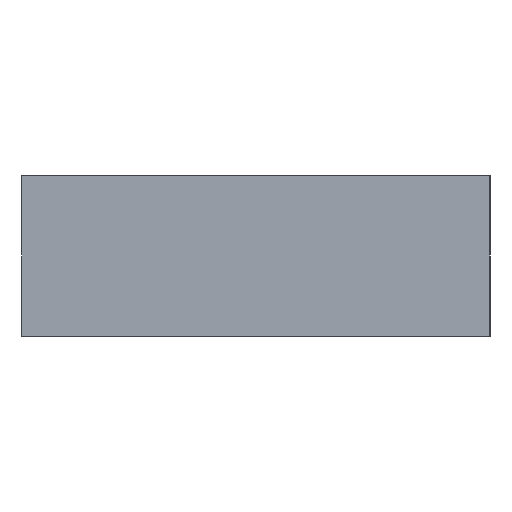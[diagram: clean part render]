
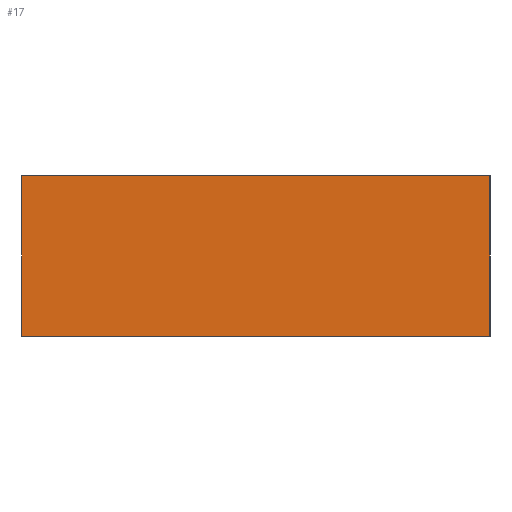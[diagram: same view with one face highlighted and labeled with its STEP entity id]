
A CAD part, left-side view. The second image highlights one B-rep face of the part: STEP entity #17.
In plain terms, the highlighted planar face has unit normal (-1, 0, 0).
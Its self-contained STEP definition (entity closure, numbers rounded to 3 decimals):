
#17 = ADVANCED_FACE('',(#18),#32,.F.);
#18 = FACE_BOUND('',#19,.F.);
#19 = EDGE_LOOP('',(#20,#55,#83,#111));
#20 = ORIENTED_EDGE('',*,*,#21,.F.);
#21 = EDGE_CURVE('',#22,#24,#26,.T.);
#22 = VERTEX_POINT('',#23);
#23 = CARTESIAN_POINT('',(-25.,-17.5,0.));
#24 = VERTEX_POINT('',#25);
#25 = CARTESIAN_POINT('',(-25.,-17.5,12.));
#26 = SURFACE_CURVE('',#27,(#31,#43),.PCURVE_S1.);
#27 = LINE('',#28,#29);
#28 = CARTESIAN_POINT('',(-25.,-17.5,0.));
#29 = VECTOR('',#30,1.);
#30 = DIRECTION('',(0.,0.,1.));
#31 = PCURVE('',#32,#37);
#32 = PLANE('',#33);
#33 = AXIS2_PLACEMENT_3D('',#34,#35,#36);
#34 = CARTESIAN_POINT('',(-25.,-17.5,0.));
#35 = DIRECTION('',(1.,0.,0.));
#36 = DIRECTION('',(0.,0.,1.));
#37 = DEFINITIONAL_REPRESENTATION('',(#38),#42);
#38 = LINE('',#39,#40);
#39 = CARTESIAN_POINT('',(0.,0.));
#40 = VECTOR('',#41,1.);
#41 = DIRECTION('',(1.,0.));
#42 = ( GEOMETRIC_REPRESENTATION_CONTEXT(2) 
PARAMETRIC_REPRESENTATION_CONTEXT() REPRESENTATION_CONTEXT('2D SPACE',''
  ) );
#43 = PCURVE('',#44,#49);
#44 = PLANE('',#45);
#45 = AXIS2_PLACEMENT_3D('',#46,#47,#48);
#46 = CARTESIAN_POINT('',(-25.,-17.5,0.));
#47 = DIRECTION('',(0.,1.,0.));
#48 = DIRECTION('',(0.,0.,1.));
#49 = DEFINITIONAL_REPRESENTATION('',(#50),#54);
#50 = LINE('',#51,#52);
#51 = CARTESIAN_POINT('',(0.,0.));
#52 = VECTOR('',#53,1.);
#53 = DIRECTION('',(1.,0.));
#54 = ( GEOMETRIC_REPRESENTATION_CONTEXT(2) 
PARAMETRIC_REPRESENTATION_CONTEXT() REPRESENTATION_CONTEXT('2D SPACE',''
  ) );
#55 = ORIENTED_EDGE('',*,*,#56,.T.);
#56 = EDGE_CURVE('',#22,#57,#59,.T.);
#57 = VERTEX_POINT('',#58);
#58 = CARTESIAN_POINT('',(-25.,17.5,0.));
#59 = SURFACE_CURVE('',#60,(#64,#71),.PCURVE_S1.);
#60 = LINE('',#61,#62);
#61 = CARTESIAN_POINT('',(-25.,-17.5,0.));
#62 = VECTOR('',#63,1.);
#63 = DIRECTION('',(0.,1.,0.));
#64 = PCURVE('',#32,#65);
#65 = DEFINITIONAL_REPRESENTATION('',(#66),#70);
#66 = LINE('',#67,#68);
#67 = CARTESIAN_POINT('',(0.,0.));
#68 = VECTOR('',#69,1.);
#69 = DIRECTION('',(0.,-1.));
#70 = ( GEOMETRIC_REPRESENTATION_CONTEXT(2) 
PARAMETRIC_REPRESENTATION_CONTEXT() REPRESENTATION_CONTEXT('2D SPACE',''
  ) );
#71 = PCURVE('',#72,#77);
#72 = PLANE('',#73);
#73 = AXIS2_PLACEMENT_3D('',#74,#75,#76);
#74 = CARTESIAN_POINT('',(-25.,-17.5,0.));
#75 = DIRECTION('',(0.,0.,1.));
#76 = DIRECTION('',(1.,0.,0.));
#77 = DEFINITIONAL_REPRESENTATION('',(#78),#82);
#78 = LINE('',#79,#80);
#79 = CARTESIAN_POINT('',(0.,0.));
#80 = VECTOR('',#81,1.);
#81 = DIRECTION('',(0.,1.));
#82 = ( GEOMETRIC_REPRESENTATION_CONTEXT(2) 
PARAMETRIC_REPRESENTATION_CONTEXT() REPRESENTATION_CONTEXT('2D SPACE',''
  ) );
#83 = ORIENTED_EDGE('',*,*,#84,.T.);
#84 = EDGE_CURVE('',#57,#85,#87,.T.);
#85 = VERTEX_POINT('',#86);
#86 = CARTESIAN_POINT('',(-25.,17.5,12.));
#87 = SURFACE_CURVE('',#88,(#92,#99),.PCURVE_S1.);
#88 = LINE('',#89,#90);
#89 = CARTESIAN_POINT('',(-25.,17.5,0.));
#90 = VECTOR('',#91,1.);
#91 = DIRECTION('',(0.,0.,1.));
#92 = PCURVE('',#32,#93);
#93 = DEFINITIONAL_REPRESENTATION('',(#94),#98);
#94 = LINE('',#95,#96);
#95 = CARTESIAN_POINT('',(0.,-35.));
#96 = VECTOR('',#97,1.);
#97 = DIRECTION('',(1.,0.));
#98 = ( GEOMETRIC_REPRESENTATION_CONTEXT(2) 
PARAMETRIC_REPRESENTATION_CONTEXT() REPRESENTATION_CONTEXT('2D SPACE',''
  ) );
#99 = PCURVE('',#100,#105);
#100 = PLANE('',#101);
#101 = AXIS2_PLACEMENT_3D('',#102,#103,#104);
#102 = CARTESIAN_POINT('',(-25.,17.5,0.));
#103 = DIRECTION('',(0.,1.,0.));
#104 = DIRECTION('',(0.,0.,1.));
#105 = DEFINITIONAL_REPRESENTATION('',(#106),#110);
#106 = LINE('',#107,#108);
#107 = CARTESIAN_POINT('',(0.,0.));
#108 = VECTOR('',#109,1.);
#109 = DIRECTION('',(1.,0.));
#110 = ( GEOMETRIC_REPRESENTATION_CONTEXT(2) 
PARAMETRIC_REPRESENTATION_CONTEXT() REPRESENTATION_CONTEXT('2D SPACE',''
  ) );
#111 = ORIENTED_EDGE('',*,*,#112,.F.);
#112 = EDGE_CURVE('',#24,#85,#113,.T.);
#113 = SURFACE_CURVE('',#114,(#118,#125),.PCURVE_S1.);
#114 = LINE('',#115,#116);
#115 = CARTESIAN_POINT('',(-25.,-17.5,12.));
#116 = VECTOR('',#117,1.);
#117 = DIRECTION('',(0.,1.,0.));
#118 = PCURVE('',#32,#119);
#119 = DEFINITIONAL_REPRESENTATION('',(#120),#124);
#120 = LINE('',#121,#122);
#121 = CARTESIAN_POINT('',(12.,0.));
#122 = VECTOR('',#123,1.);
#123 = DIRECTION('',(0.,-1.));
#124 = ( GEOMETRIC_REPRESENTATION_CONTEXT(2) 
PARAMETRIC_REPRESENTATION_CONTEXT() REPRESENTATION_CONTEXT('2D SPACE',''
  ) );
#125 = PCURVE('',#126,#131);
#126 = PLANE('',#127);
#127 = AXIS2_PLACEMENT_3D('',#128,#129,#130);
#128 = CARTESIAN_POINT('',(-25.,-17.5,12.));
#129 = DIRECTION('',(0.,0.,1.));
#130 = DIRECTION('',(1.,0.,0.));
#131 = DEFINITIONAL_REPRESENTATION('',(#132),#136);
#132 = LINE('',#133,#134);
#133 = CARTESIAN_POINT('',(0.,0.));
#134 = VECTOR('',#135,1.);
#135 = DIRECTION('',(0.,1.));
#136 = ( GEOMETRIC_REPRESENTATION_CONTEXT(2) 
PARAMETRIC_REPRESENTATION_CONTEXT() REPRESENTATION_CONTEXT('2D SPACE',''
  ) );
